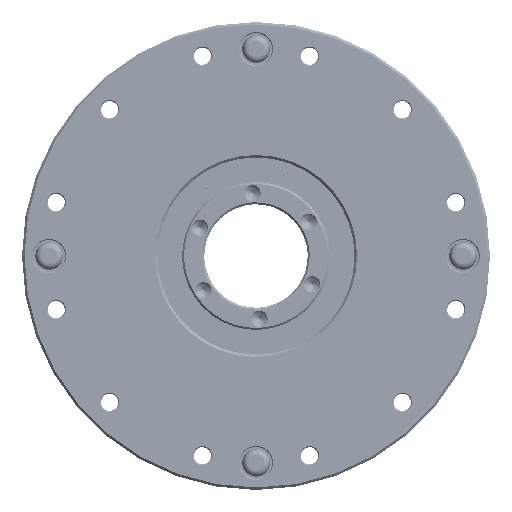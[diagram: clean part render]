
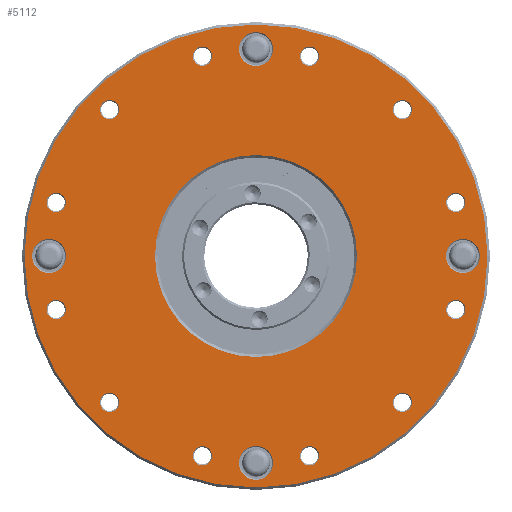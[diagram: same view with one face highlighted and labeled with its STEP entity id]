
A CAD part, front view. The second image highlights one B-rep face of the part: STEP entity #5112.
In plain terms, the highlighted planar face has unit normal (0, -1, 0).
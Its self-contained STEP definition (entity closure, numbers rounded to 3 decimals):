
#4756=PLANE('',#17281);
#5112=ADVANCED_FACE('',(#6424,#6425,#6426,#6427,#6428,#6429,#6430,#6431,
#6432,#6433,#6434,#6435,#6436,#6437,#6438,#6439,#6440,#6441),#4756,.F.);
#6424=FACE_BOUND('',#7774,.T.);
#6425=FACE_BOUND('',#7775,.T.);
#6426=FACE_BOUND('',#7776,.T.);
#6427=FACE_BOUND('',#7777,.T.);
#6428=FACE_BOUND('',#7778,.T.);
#6429=FACE_BOUND('',#7779,.T.);
#6430=FACE_BOUND('',#7780,.T.);
#6431=FACE_BOUND('',#7781,.T.);
#6432=FACE_BOUND('',#7782,.T.);
#6433=FACE_BOUND('',#7783,.T.);
#6434=FACE_BOUND('',#7784,.T.);
#6435=FACE_BOUND('',#7785,.T.);
#6436=FACE_BOUND('',#7786,.T.);
#6437=FACE_BOUND('',#7787,.T.);
#6438=FACE_BOUND('',#7788,.T.);
#6439=FACE_BOUND('',#7789,.T.);
#6440=FACE_BOUND('',#7790,.T.);
#6441=FACE_BOUND('',#7791,.T.);
#7774=EDGE_LOOP('',(#9525));
#7775=EDGE_LOOP('',(#9526));
#7776=EDGE_LOOP('',(#9527));
#7777=EDGE_LOOP('',(#9528));
#7778=EDGE_LOOP('',(#9529));
#7779=EDGE_LOOP('',(#9530));
#7780=EDGE_LOOP('',(#9531));
#7781=EDGE_LOOP('',(#9532));
#7782=EDGE_LOOP('',(#9533));
#7783=EDGE_LOOP('',(#9534));
#7784=EDGE_LOOP('',(#9535));
#7785=EDGE_LOOP('',(#9536));
#7786=EDGE_LOOP('',(#9537));
#7787=EDGE_LOOP('',(#9538));
#7788=EDGE_LOOP('',(#9539));
#7789=EDGE_LOOP('',(#9540));
#7790=EDGE_LOOP('',(#9541));
#7791=EDGE_LOOP('',(#9542));
#9525=ORIENTED_EDGE('',*,*,#14680,.T.);
#9526=ORIENTED_EDGE('',*,*,#14681,.T.);
#9527=ORIENTED_EDGE('',*,*,#14682,.T.);
#9528=ORIENTED_EDGE('',*,*,#14683,.T.);
#9529=ORIENTED_EDGE('',*,*,#14684,.T.);
#9530=ORIENTED_EDGE('',*,*,#14685,.T.);
#9531=ORIENTED_EDGE('',*,*,#14686,.T.);
#9532=ORIENTED_EDGE('',*,*,#14687,.T.);
#9533=ORIENTED_EDGE('',*,*,#14688,.T.);
#9534=ORIENTED_EDGE('',*,*,#14689,.T.);
#9535=ORIENTED_EDGE('',*,*,#14690,.T.);
#9536=ORIENTED_EDGE('',*,*,#14691,.T.);
#9537=ORIENTED_EDGE('',*,*,#14692,.T.);
#9538=ORIENTED_EDGE('',*,*,#14693,.T.);
#9539=ORIENTED_EDGE('',*,*,#14694,.T.);
#9540=ORIENTED_EDGE('',*,*,#14695,.T.);
#9541=ORIENTED_EDGE('',*,*,#14696,.T.);
#9542=ORIENTED_EDGE('',*,*,#14697,.T.);
#13194=VERTEX_POINT('',#22809);
#13195=VERTEX_POINT('',#22811);
#13196=VERTEX_POINT('',#22813);
#13197=VERTEX_POINT('',#22815);
#13198=VERTEX_POINT('',#22817);
#13199=VERTEX_POINT('',#22819);
#13200=VERTEX_POINT('',#22821);
#13201=VERTEX_POINT('',#22823);
#13202=VERTEX_POINT('',#22825);
#13203=VERTEX_POINT('',#22827);
#13204=VERTEX_POINT('',#22829);
#13205=VERTEX_POINT('',#22831);
#13206=VERTEX_POINT('',#22833);
#13207=VERTEX_POINT('',#22835);
#13208=VERTEX_POINT('',#22837);
#13209=VERTEX_POINT('',#22839);
#13210=VERTEX_POINT('',#22841);
#13211=VERTEX_POINT('',#22843);
#14680=EDGE_CURVE('',#13194,#13194,#16515,.T.);
#14681=EDGE_CURVE('',#13195,#13195,#16516,.T.);
#14682=EDGE_CURVE('',#13196,#13196,#16517,.T.);
#14683=EDGE_CURVE('',#13197,#13197,#16518,.T.);
#14684=EDGE_CURVE('',#13198,#13198,#16519,.T.);
#14685=EDGE_CURVE('',#13199,#13199,#16520,.T.);
#14686=EDGE_CURVE('',#13200,#13200,#16521,.T.);
#14687=EDGE_CURVE('',#13201,#13201,#16522,.T.);
#14688=EDGE_CURVE('',#13202,#13202,#16523,.T.);
#14689=EDGE_CURVE('',#13203,#13203,#16524,.T.);
#14690=EDGE_CURVE('',#13204,#13204,#16525,.T.);
#14691=EDGE_CURVE('',#13205,#13205,#16526,.T.);
#14692=EDGE_CURVE('',#13206,#13206,#16527,.T.);
#14693=EDGE_CURVE('',#13207,#13207,#16528,.T.);
#14694=EDGE_CURVE('',#13208,#13208,#16529,.T.);
#14695=EDGE_CURVE('',#13209,#13209,#16530,.T.);
#14696=EDGE_CURVE('',#13210,#13210,#16531,.T.);
#14697=EDGE_CURVE('',#13211,#13211,#16532,.T.);
#16515=CIRCLE('',#17263,1.95);
#16516=CIRCLE('',#17264,1.95);
#16517=CIRCLE('',#17265,1.95);
#16518=CIRCLE('',#17266,1.95);
#16519=CIRCLE('',#17267,1.95);
#16520=CIRCLE('',#17268,1.95);
#16521=CIRCLE('',#17269,1.95);
#16522=CIRCLE('',#17270,1.95);
#16523=CIRCLE('',#17271,1.95);
#16524=CIRCLE('',#17272,1.95);
#16525=CIRCLE('',#17273,1.95);
#16526=CIRCLE('',#17274,1.95);
#16527=CIRCLE('',#17275,3.45);
#16528=CIRCLE('',#17276,3.45);
#16529=CIRCLE('',#17277,3.45);
#16530=CIRCLE('',#17278,3.45);
#16531=CIRCLE('',#17279,47.);
#16532=CIRCLE('',#17280,20.5);
#17263=AXIS2_PLACEMENT_3D('',#22808,#18944,#18945);
#17264=AXIS2_PLACEMENT_3D('',#22810,#18946,#18947);
#17265=AXIS2_PLACEMENT_3D('',#22812,#18948,#18949);
#17266=AXIS2_PLACEMENT_3D('',#22814,#18950,#18951);
#17267=AXIS2_PLACEMENT_3D('',#22816,#18952,#18953);
#17268=AXIS2_PLACEMENT_3D('',#22818,#18954,#18955);
#17269=AXIS2_PLACEMENT_3D('',#22820,#18956,#18957);
#17270=AXIS2_PLACEMENT_3D('',#22822,#18958,#18959);
#17271=AXIS2_PLACEMENT_3D('',#22824,#18960,#18961);
#17272=AXIS2_PLACEMENT_3D('',#22826,#18962,#18963);
#17273=AXIS2_PLACEMENT_3D('',#22828,#18964,#18965);
#17274=AXIS2_PLACEMENT_3D('',#22830,#18966,#18967);
#17275=AXIS2_PLACEMENT_3D('',#22832,#18968,#18969);
#17276=AXIS2_PLACEMENT_3D('',#22834,#18970,#18971);
#17277=AXIS2_PLACEMENT_3D('',#22836,#18972,#18973);
#17278=AXIS2_PLACEMENT_3D('',#22838,#18974,#18975);
#17279=AXIS2_PLACEMENT_3D('',#22840,#18976,#18977);
#17280=AXIS2_PLACEMENT_3D('',#22842,#18978,#18979);
#17281=AXIS2_PLACEMENT_3D('',#22844,#18980,#18981);
#18944=DIRECTION('',(0.,1.,0.));
#18945=DIRECTION('',(0.,0.,1.));
#18946=DIRECTION('',(0.,1.,0.));
#18947=DIRECTION('',(0.,0.,1.));
#18948=DIRECTION('',(0.,1.,0.));
#18949=DIRECTION('',(0.,0.,1.));
#18950=DIRECTION('',(0.,1.,0.));
#18951=DIRECTION('',(0.,0.,1.));
#18952=DIRECTION('',(0.,1.,0.));
#18953=DIRECTION('',(0.,0.,1.));
#18954=DIRECTION('',(0.,1.,0.));
#18955=DIRECTION('',(0.,0.,1.));
#18956=DIRECTION('',(0.,1.,0.));
#18957=DIRECTION('',(0.,0.,1.));
#18958=DIRECTION('',(0.,1.,0.));
#18959=DIRECTION('',(0.,0.,1.));
#18960=DIRECTION('',(0.,1.,0.));
#18961=DIRECTION('',(0.,0.,1.));
#18962=DIRECTION('',(0.,1.,0.));
#18963=DIRECTION('',(0.,0.,1.));
#18964=DIRECTION('',(0.,1.,0.));
#18965=DIRECTION('',(0.,0.,1.));
#18966=DIRECTION('',(0.,1.,0.));
#18967=DIRECTION('',(0.,0.,1.));
#18968=DIRECTION('',(0.,1.,0.));
#18969=DIRECTION('',(0.,0.,1.));
#18970=DIRECTION('',(0.,1.,0.));
#18971=DIRECTION('',(0.,0.,1.));
#18972=DIRECTION('',(0.,1.,0.));
#18973=DIRECTION('',(0.,0.,1.));
#18974=DIRECTION('',(0.,1.,0.));
#18975=DIRECTION('',(0.,0.,1.));
#18976=DIRECTION('',(0.,-1.,0.));
#18977=DIRECTION('',(0.,0.,1.));
#18978=DIRECTION('',(0.,1.,0.));
#18979=DIRECTION('',(0.,0.,1.));
#18980=DIRECTION('',(0.,1.,0.));
#18981=DIRECTION('',(0.,0.,1.));
#22808=CARTESIAN_POINT('',(10.87,0.,-40.569));
#22809=CARTESIAN_POINT('',(10.87,0.,-38.619));
#22810=CARTESIAN_POINT('',(-10.87,0.,-40.569));
#22811=CARTESIAN_POINT('',(-10.87,0.,-38.619));
#22812=CARTESIAN_POINT('',(-29.698,0.,-29.698));
#22813=CARTESIAN_POINT('',(-29.698,0.,-27.748));
#22814=CARTESIAN_POINT('',(-40.569,0.,-10.87));
#22815=CARTESIAN_POINT('',(-40.569,0.,-8.92));
#22816=CARTESIAN_POINT('',(-40.569,0.,10.87));
#22817=CARTESIAN_POINT('',(-40.569,0.,12.82));
#22818=CARTESIAN_POINT('',(-29.698,0.,29.698));
#22819=CARTESIAN_POINT('',(-29.698,0.,31.648));
#22820=CARTESIAN_POINT('',(-10.87,0.,40.569));
#22821=CARTESIAN_POINT('',(-10.87,0.,42.519));
#22822=CARTESIAN_POINT('',(10.87,0.,40.569));
#22823=CARTESIAN_POINT('',(10.87,0.,42.519));
#22824=CARTESIAN_POINT('',(29.698,0.,29.698));
#22825=CARTESIAN_POINT('',(29.698,0.,31.648));
#22826=CARTESIAN_POINT('',(40.569,0.,10.87));
#22827=CARTESIAN_POINT('',(40.569,0.,12.82));
#22828=CARTESIAN_POINT('',(40.569,0.,-10.87));
#22829=CARTESIAN_POINT('',(40.569,0.,-8.92));
#22830=CARTESIAN_POINT('',(29.698,0.,-29.698));
#22831=CARTESIAN_POINT('',(29.698,0.,-27.748));
#22832=CARTESIAN_POINT('',(42.,0.,0.));
#22833=CARTESIAN_POINT('',(42.,0.,3.45));
#22834=CARTESIAN_POINT('',(0.,0.,42.));
#22835=CARTESIAN_POINT('',(0.,0.,45.45));
#22836=CARTESIAN_POINT('',(-42.,0.,0.));
#22837=CARTESIAN_POINT('',(-42.,0.,3.45));
#22838=CARTESIAN_POINT('',(0.,0.,-42.));
#22839=CARTESIAN_POINT('',(0.,0.,-38.55));
#22840=CARTESIAN_POINT('',(0.,0.,0.));
#22841=CARTESIAN_POINT('',(0.,0.,47.));
#22842=CARTESIAN_POINT('',(0.,0.,0.));
#22843=CARTESIAN_POINT('',(0.,0.,20.5));
#22844=CARTESIAN_POINT('',(20.,0.,0.));
